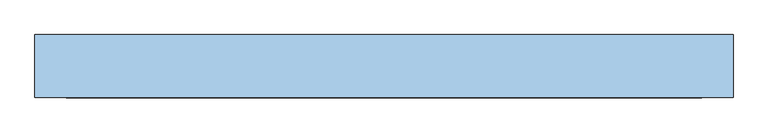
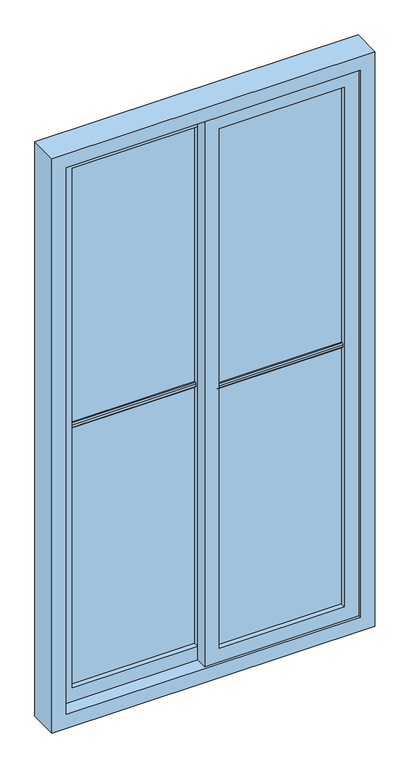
"""IFC4 building model written with IfcOpenShell, lengths in millimetres: window geometry, 雙開落地窗- (2) : 133 * 250 cm."""

from ifc_helpers import new_model, si_unit, point, frame, frame_2d, origin, place, context, project, spatial, polyline, circle_curve, trimmed, segment, composite_curve, outline, extrude, source, transform, mapped, element, save


def window_915d79c7(model_context):
    return source(origin(), model_context, "Body", "SweptSolid", [
        extrude(outline(composite_curve([segment(polyline([(-210.0, 1240.0), (-215.0, 1240.0)]), True, "CONTINUOUS"), segment(trimmed(circle_curve(frame_2d((-215.0, 1245.0)), 5.0), [point((-215.0, 1240.0))], [point((-220.0, 1245.0))], False, "CARTESIAN"), True, "CONTINUOUS"), segment(polyline([(-220.0, 1245.0), (-220.0, 1255.0)]), True, "CONTINUOUS"), segment(trimmed(circle_curve(frame_2d((-215.0, 1255.0)), 5.0), [point((-220.0, 1255.0))], [point((-215.0, 1260.0))], False, "CARTESIAN"), True, "CONTINUOUS"), segment(polyline([(-215.0, 1260.0), (-210.0, 1260.0), (-210.0, 1240.0)]), True, "CONTINUOUS")], self_intersect=False)), frame((30.0, 0.0, 0.0), z_axis=(1.0, 0.0, 0.0), x_axis=(0.0, 1.0, 0.0)), (0.0, 0.0, 1.0), 515.0),
        extrude(outline(composite_curve([segment(polyline([(-200.0, 1240.0), (-200.0, 1260.0), (-195.0, 1260.0)]), True, "CONTINUOUS"), segment(trimmed(circle_curve(frame_2d((-195.0, 1255.0)), 5.0), [point((-195.0, 1260.0))], [point((-190.0, 1255.0))], False, "CARTESIAN"), True, "CONTINUOUS"), segment(polyline([(-190.0, 1255.0), (-190.0, 1245.0)]), True, "CONTINUOUS"), segment(trimmed(circle_curve(frame_2d((-195.0, 1245.0)), 5.0), [point((-190.0, 1245.0))], [point((-195.0, 1240.0))], False, "CARTESIAN"), True, "CONTINUOUS"), segment(polyline([(-195.0, 1240.0), (-200.0, 1240.0)]), True, "CONTINUOUS")], self_intersect=False)), frame((30.0, 0.0, 0.0), z_axis=(1.0, 0.0, 0.0), x_axis=(0.0, 1.0, 0.0)), (0.0, 0.0, 1.0), 515.0),
        extrude(outline(polyline([(2440.0, 605.0), (2440.0, -30.0), (60.0, -30.0), (60.0, 605.0), (2440.0, 605.0)]), holes=[polyline([(2380.0, 545.0), (120.0, 545.0), (120.0, 30.0), (2380.0, 30.0), (2380.0, 545.0)])]), frame((0.0, -230.0, 0.0), z_axis=(0.0, 1.0, 0.0), x_axis=(0.0, 0.0, 1.0)), (0.0, 0.0, 1.0), 50.0),
        extrude(outline(polyline([(545.0, -210.0), (30.0, -210.0), (30.0, -200.0), (545.0, -200.0), (545.0, -210.0)])), frame((0.0, 0.0, 120.0), z_axis=(0.0, 0.0, 1.0), x_axis=(1.0, 0.0, 0.0)), (0.0, 0.0, 1.0), 2260.0),
        extrude(outline(composite_curve([segment(polyline([(-150.0, 1240.0), (-150.0, 1260.0), (-145.0, 1260.0)]), True, "CONTINUOUS"), segment(trimmed(circle_curve(frame_2d((-145.0, 1255.0)), 5.0), [point((-145.0, 1260.0))], [point((-140.0, 1255.0))], False, "CARTESIAN"), True, "CONTINUOUS"), segment(polyline([(-140.0, 1255.0), (-140.0, 1245.0)]), True, "CONTINUOUS"), segment(trimmed(circle_curve(frame_2d((-145.0, 1245.0)), 5.0), [point((-140.0, 1245.0))], [point((-145.0, 1240.0))], False, "CARTESIAN"), True, "CONTINUOUS"), segment(polyline([(-145.0, 1240.0), (-150.0, 1240.0)]), True, "CONTINUOUS")], self_intersect=False)), frame((-545.0, 0.0, 0.0), z_axis=(1.0, 0.0, 0.0), x_axis=(0.0, 1.0, 0.0)), (0.0, 0.0, 1.0), 515.0),
        extrude(outline(composite_curve([segment(polyline([(-160.0, 1240.0), (-165.0, 1240.0)]), True, "CONTINUOUS"), segment(trimmed(circle_curve(frame_2d((-165.0, 1245.0)), 5.0), [point((-165.0, 1240.0))], [point((-170.0, 1245.0))], False, "CARTESIAN"), True, "CONTINUOUS"), segment(polyline([(-170.0, 1245.0), (-170.0, 1255.0)]), True, "CONTINUOUS"), segment(trimmed(circle_curve(frame_2d((-165.0, 1255.0)), 5.0), [point((-170.0, 1255.0))], [point((-165.0, 1260.0))], False, "CARTESIAN"), True, "CONTINUOUS"), segment(polyline([(-165.0, 1260.0), (-160.0, 1260.0), (-160.0, 1240.0)]), True, "CONTINUOUS")], self_intersect=False)), frame((-545.0, 0.0, 0.0), z_axis=(1.0, 0.0, 0.0), x_axis=(0.0, 1.0, 0.0)), (0.0, 0.0, 1.0), 515.0),
        extrude(outline(polyline([(2440.0, 30.0), (2440.0, -605.0), (60.0, -605.0), (60.0, 30.0), (2440.0, 30.0)]), holes=[polyline([(2380.0, -30.0), (120.0, -30.0), (120.0, -545.0), (2380.0, -545.0), (2380.0, -30.0)])]), frame((0.0, -180.0, 0.0), z_axis=(0.0, 1.0, 0.0), x_axis=(0.0, 0.0, 1.0)), (0.0, 0.0, 1.0), 50.0),
        extrude(outline(polyline([(-30.0, -150.0), (-30.0, -160.0), (-545.0, -160.0), (-545.0, -150.0), (-30.0, -150.0)])), frame((0.0, 0.0, 120.0), z_axis=(0.0, 0.0, 1.0), x_axis=(1.0, 0.0, 0.0)), (0.0, 0.0, 1.0), 2260.0),
        extrude(outline(polyline([(2500.0, 665.0), (2500.0, -665.0), (0.0, -665.0), (0.0, 665.0), (2500.0, 665.0)]), holes=[polyline([(2440.0, 605.0), (60.0, 605.0), (60.0, -605.0), (2440.0, -605.0), (2440.0, 605.0)])]), frame((0.0, -240.0, 0.0), z_axis=(0.0, 1.0, 0.0), x_axis=(0.0, 0.0, 1.0)), (0.0, 0.0, 1.0), 120.0),
    ])


if __name__ == "__main__":
    model = new_model("IFC4")
    model_context = context("Model", 3, world=origin())
    ifc_project = project(units=[si_unit("LENGTHUNIT", "METRE", prefix="MILLI")], contexts=[model_context])
    site = spatial("IfcSite", under=ifc_project)
    building = spatial("IfcBuilding", under=site)
    placement = place(None, origin())
    window_shape = window_915d79c7(model_context)
    element("IfcWindow", 1, ObjectType="雙開落地窗- (2) : 133 * 250 cm", at=placement, inside=building, context=model_context, shape_type="MappedRepresentation", body=[
        mapped(window_shape, transform((0.0, 0.0, 0.0), x_axis=(1.0, 0.0, 0.0), y_axis=(0.0, 1.0, 0.0), z_axis=(0.0, 0.0, 1.0))),
    ])
    save(model, "model.ifc")
